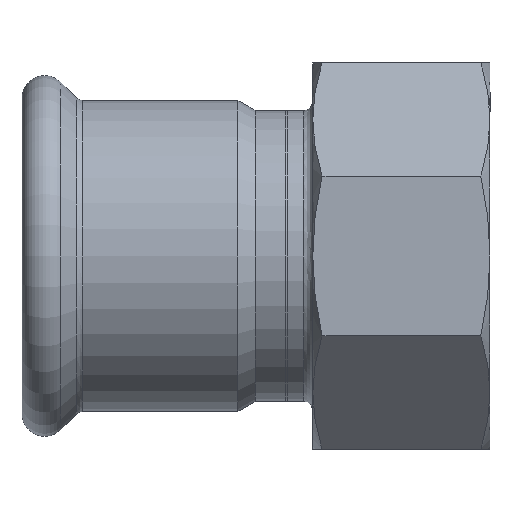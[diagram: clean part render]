
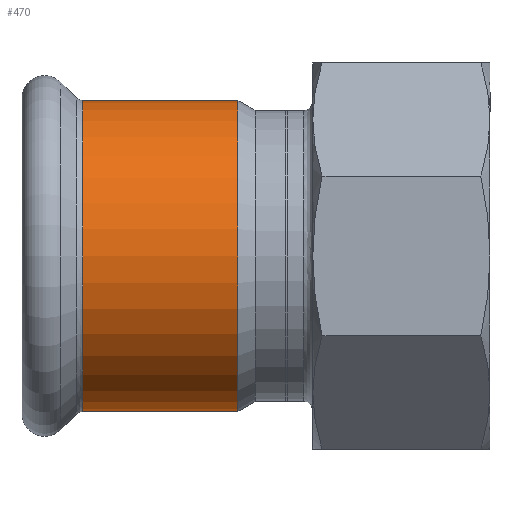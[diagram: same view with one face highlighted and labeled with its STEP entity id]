
A CAD part, front view. The second image highlights one B-rep face of the part: STEP entity #470.
In plain terms, the highlighted cylindrical face has radius 34.2 mm (diameter 68.4 mm), a full revolution.
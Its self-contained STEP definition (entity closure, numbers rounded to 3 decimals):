
#436=CARTESIAN_POINT('',(-45.101,34.2,0.0));
#437=VERTEX_POINT('',#436);
#438=CARTESIAN_POINT('',(-45.101,0.,0.0));
#439=DIRECTION('',(1.0,0.0,0.0));
#440=DIRECTION('',(0.0,1.0,0.0));
#441=AXIS2_PLACEMENT_3D('',#438,#439,#440);
#442=CIRCLE('',#441,34.2);
#443=EDGE_CURVE('',#437,#437,#442,.T.);
#451=CARTESIAN_POINT('',(-28.032,0.,0.0));
#452=DIRECTION('',(1.0,0.,0.0));
#453=DIRECTION('',(0.0,1.0,0.0));
#454=AXIS2_PLACEMENT_3D('',#451,#452,#453);
#455=CYLINDRICAL_SURFACE('',#454,34.2);
#456=CARTESIAN_POINT('',(-10.964,34.2,0.0));
#457=VERTEX_POINT('',#456);
#458=CARTESIAN_POINT('',(-10.964,0.,0.0));
#459=DIRECTION('',(1.0,0.0,0.0));
#460=DIRECTION('',(0.0,1.0,0.0));
#461=AXIS2_PLACEMENT_3D('',#458,#459,#460);
#462=CIRCLE('',#461,34.2);
#463=EDGE_CURVE('',#457,#457,#462,.T.);
#464=ORIENTED_EDGE('',*,*,#463,.F.);
#465=EDGE_LOOP('',(#464));
#466=FACE_OUTER_BOUND('',#465,.T.);
#467=ORIENTED_EDGE('',*,*,#443,.T.);
#468=EDGE_LOOP('',(#467));
#469=FACE_BOUND('',#468,.T.);
#470=ADVANCED_FACE('',(#466,#469),#455,.T.);
